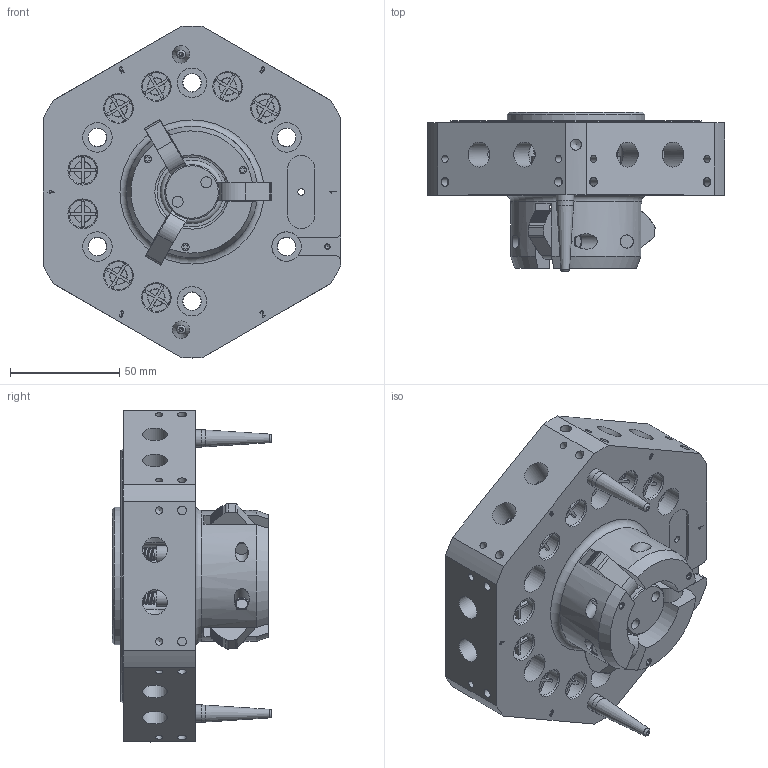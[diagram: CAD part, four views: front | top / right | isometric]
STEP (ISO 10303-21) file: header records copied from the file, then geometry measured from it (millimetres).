
FILE_DESCRIPTION (( 'STEP AP214' ), '1' );
FILE_NAME ('1607-D09A REV00.STEP', '2019-03-05T12:46:27', ( 'Any Employee' ), ( 'Applied Robotics Inc.' ), 'SwSTEP 2.0', 'SolidWorks 2019', '' );
FILE_SCHEMA (( 'AUTOMOTIVE_DESIGN' ));
Length unit declared in the file: millimetre
Products named in the file (25): 96510-B1092; 97501-P1047; 89503-P1052; 97501-P1084; 97501-P1046; 1506-C52N; 91502-P1060; 1502-C61N; 1607-C10N; 48427; 86555-p1021; 48030; 1607-D09A REV00; 48012; 1506-C53N; 49628_90967A120; 97500-B1028; 1506-C55N; 48425; 89504-P1063; 90511-P1030_Default<As Machined>; 1506-D51N; 0601-P58N; 1506-C54N; 1601-D27A
Assembly tree (76 placements, depth 3):
  1607-D09A REV00
    1601-D27A
      1506-D51N
      1506-C52N
      1506-C53N
      1506-C54N
      1502-C61N  x3
      97500-B1028  x3
      96510-B1092  x2
      48427  x5
      48425  x3
      89503-P1052  x9
      48030  x2
      90511-P1030_Default<As Machined>
      97501-P1046
      48012  x8
      0601-P58N
      91502-P1060
      49628_90967A120
    1607-C10N
    1506-C55N  x8
    97501-P1047  x8
    86555-p1021  x8
    89504-P1063  x4
    97501-P1084  x2
Bounding box: 136 x 73.02 x 152 mm (x, y, z)
Volume: 493686.1 mm3; surface area: 167062.3 mm2
Topology: 75 solids, 75 shells, 1700 faces, 4056 edges, 2652 vertices
Faces by surface type: plane 910, cylinder 358, bspline 191, cone 146, torus 95
Full cylindrical faces by diameter (mm): 1.5 x2, 2.05 x1, 2.5 x15, 3 x24, 3.05 x2, 3.3 x18, 3.5 x12, 4 x8, 4.062 x10, 4.2 x2, 4.5 x8, 5 x4, 5.105 x2, 5.25 x2, 5.33 x8, 5.5 x14, 6 x11, 6.022 x9, 6.35 x2, 7.4 x1, 7.775 x16, 7.97 x4, 8 x10, 8.001 x1, 8.3 x7, 8.5 x9, 8.566 x2, 9 x3, 10 x1, 11 x8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
Entity records: 46664 total; most frequent: CARTESIAN_POINT 22414, ORIENTED_EDGE 4310, DIRECTION 4233, EDGE_CURVE 2155, EDGE_LOOP 1657, VERTEX_POINT 1590, AXIS2_PLACEMENT_3D 1549, FACE_OUTER_BOUND 1296
